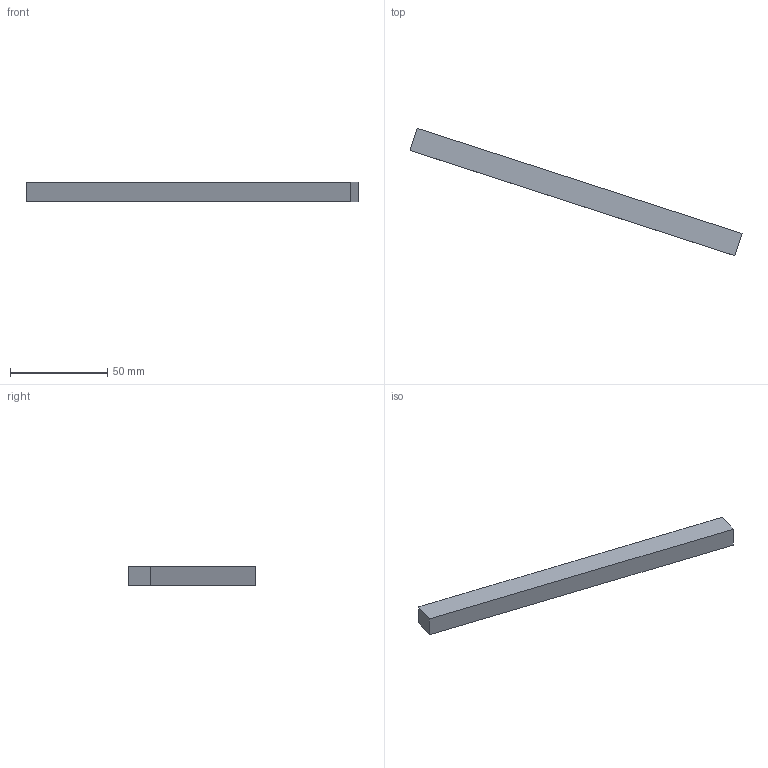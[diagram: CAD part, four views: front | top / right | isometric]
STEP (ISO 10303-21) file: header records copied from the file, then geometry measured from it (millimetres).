
FILE_DESCRIPTION(('Open CASCADE Model'),'2;1');
FILE_NAME('Open CASCADE Shape Model','2026-10-04T02:31:35',('Author'),( 'Open CASCADE'),'Open CASCADE STEP processor 8.0','Open CASCADE 8.0' ,'Unknown');
FILE_SCHEMA(('AUTOMOTIVE_DESIGN { 1 0 10303 214 1 1 1 1 }'));
Length unit declared in the file: millimetre
Products named in the file (1): Open CASCADE STEP translator 8.0 33
Bounding box: 170.69 x 65.42 x 10 mm (x, y, z)
Volume: 21061.6 mm3; surface area: 7962.6 mm2
Topology: 1 solids, 1 shells, 6 faces, 12 edges, 8 vertices
Faces by surface type: plane 6
Entity records: 322 total; most frequent: CARTESIAN_POINT 51, DIRECTION 50, LINE 36, VECTOR 36, ORIENTED_EDGE 24, PCURVE 24, DEFINITIONAL_REPRESENTATION 24, EDGE_CURVE 12
